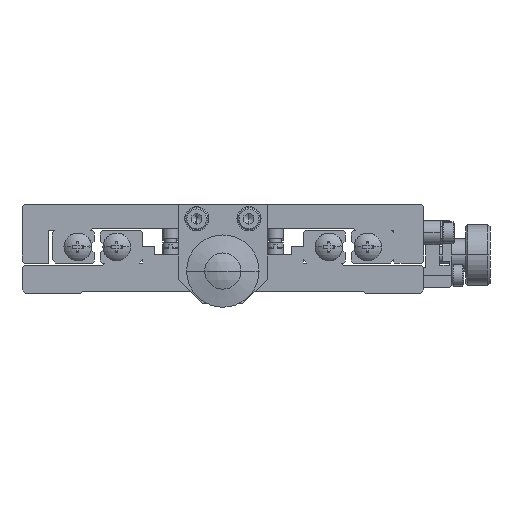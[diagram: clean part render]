
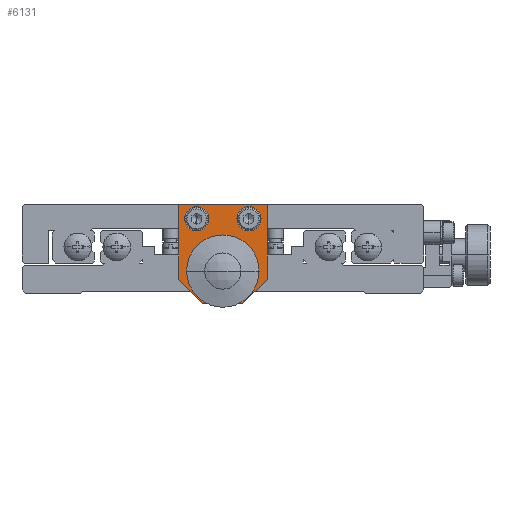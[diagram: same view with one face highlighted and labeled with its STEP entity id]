
A CAD part, front view. The second image highlights one B-rep face of the part: STEP entity #6131.
In plain terms, the highlighted planar face has unit normal (0, -1, 0) as drawn and (0, 1, 0) by its records, which use the part's own axes.
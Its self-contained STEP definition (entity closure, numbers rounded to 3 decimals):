
#341 = CARTESIAN_POINT ( 'NONE',  ( -6.5, 76.5, -0.5 ) ) ;
#342 = CARTESIAN_POINT ( 'NONE',  ( -6.5, 76.5, -6.5 ) ) ;
#343 = DIRECTION ( 'NONE',  ( 0., 0., 1. ) ) ;
#344 = DIRECTION ( 'NONE',  ( 0., -1., 0. ) ) ;
#345 = CARTESIAN_POINT ( 'NONE',  ( -6.5, 76.5, -3.5 ) ) ;
#346 = AXIS2_PLACEMENT_3D ( 'NONE', #345, #344, #343 ) ;
#347 = CIRCLE ( 'NONE', #346, 3. ) ;
#445 = CARTESIAN_POINT ( 'NONE',  ( 6.5, 76.5, -0.5 ) ) ;
#446 = CARTESIAN_POINT ( 'NONE',  ( 6.5, 76.5, -6.5 ) ) ;
#447 = DIRECTION ( 'NONE',  ( 0., 0., 1. ) ) ;
#448 = DIRECTION ( 'NONE',  ( 0., -1., 0. ) ) ;
#449 = CARTESIAN_POINT ( 'NONE',  ( 6.5, 76.5, -3.5 ) ) ;
#450 = AXIS2_PLACEMENT_3D ( 'NONE', #449, #448, #447 ) ;
#451 = CIRCLE ( 'NONE', #450, 3. ) ;
#603 = CARTESIAN_POINT ( 'NONE',  ( 8., 76.5, -16.5 ) ) ;
#604 = CARTESIAN_POINT ( 'NONE',  ( -8., 76.5, -16.5 ) ) ;
#605 = DIRECTION ( 'NONE',  ( -1., 0., 0. ) ) ;
#606 = DIRECTION ( 'NONE',  ( 0., 1., 0. ) ) ;
#607 = CARTESIAN_POINT ( 'NONE',  ( 0., 76.5, -16.5 ) ) ;
#608 = AXIS2_PLACEMENT_3D ( 'NONE', #607, #606, #605 ) ;
#609 = CIRCLE ( 'NONE', #608, 8. ) ;
#3310 = VERTEX_POINT ( 'NONE', #37578 ) ;
#3313 = EDGE_CURVE ( 'NONE', #3315, #3310, #37563, .T. ) ;
#3315 = VERTEX_POINT ( 'NONE', #37554 ) ;
#5930 = EDGE_CURVE ( 'NONE', #6032, #5931, #45702, .T. ) ;
#5931 = VERTEX_POINT ( 'NONE', #45698 ) ;
#6032 = VERTEX_POINT ( 'NONE', #45486 ) ;
#6041 = EDGE_CURVE ( 'NONE', #6061, #3310, #45478, .T. ) ;
#6053 = EDGE_CURVE ( 'NONE', #12311, #12310, #45798, .T. ) ;
#6061 = VERTEX_POINT ( 'NONE', #45786 ) ;
#6076 = VERTEX_POINT ( 'NONE', #45946 ) ;
#6078 = EDGE_CURVE ( 'NONE', #6076, #6061, #45945, .T. ) ;
#6095 = EDGE_CURVE ( 'NONE', #12336, #12335, #45934, .T. ) ;
#6114 = ORIENTED_EDGE ( 'NONE', *, *, #6078, .F. ) ;
#6115 = ORIENTED_EDGE ( 'NONE', *, *, #6095, .T. ) ;
#6116 = ORIENTED_EDGE ( 'NONE', *, *, #12334, .T. ) ;
#6117 = EDGE_LOOP ( 'NONE', ( #6118, #6119 ) ) ;
#6118 = ORIENTED_EDGE ( 'NONE', *, *, #6053, .T. ) ;
#6119 = ORIENTED_EDGE ( 'NONE', *, *, #12309, .T. ) ;
#6131 = ADVANCED_FACE ( 'NONE', ( #45894, #45893, #45892 ), #45891, .T. ) ;
#6132 = EDGE_LOOP ( 'NONE', ( #6133, #6203, #6205, #6206, #6208, #6209, #6199, #6200, #6201, #6114 ) ) ;
#6133 = ORIENTED_EDGE ( 'NONE', *, *, #6166, .F. ) ;
#6164 = EDGE_CURVE ( 'NONE', #6032, #3315, #45830, .T. ) ;
#6166 = EDGE_CURVE ( 'NONE', #6184, #6076, #45827, .T. ) ;
#6183 = EDGE_CURVE ( 'NONE', #5931, #6184, #45803, .T. ) ;
#6184 = VERTEX_POINT ( 'NONE', #45799 ) ;
#6199 = ORIENTED_EDGE ( 'NONE', *, *, #6164, .T. ) ;
#6200 = ORIENTED_EDGE ( 'NONE', *, *, #3313, .T. ) ;
#6201 = ORIENTED_EDGE ( 'NONE', *, *, #6041, .F. ) ;
#6202 = EDGE_LOOP ( 'NONE', ( #6115, #6116 ) ) ;
#6203 = ORIENTED_EDGE ( 'NONE', *, *, #6204, .F. ) ;
#6204 = EDGE_CURVE ( 'NONE', #12451, #6184, #45753, .T. ) ;
#6205 = ORIENTED_EDGE ( 'NONE', *, *, #12449, .F. ) ;
#6206 = ORIENTED_EDGE ( 'NONE', *, *, #6207, .F. ) ;
#6207 = EDGE_CURVE ( 'NONE', #6184, #12450, #45748, .T. ) ;
#6208 = ORIENTED_EDGE ( 'NONE', *, *, #6183, .F. ) ;
#6209 = ORIENTED_EDGE ( 'NONE', *, *, #5930, .F. ) ;
#12309 = EDGE_CURVE ( 'NONE', #12310, #12311, #451, .T. ) ;
#12310 = VERTEX_POINT ( 'NONE', #446 ) ;
#12311 = VERTEX_POINT ( 'NONE', #445 ) ;
#12334 = EDGE_CURVE ( 'NONE', #12335, #12336, #347, .T. ) ;
#12335 = VERTEX_POINT ( 'NONE', #342 ) ;
#12336 = VERTEX_POINT ( 'NONE', #341 ) ;
#12449 = EDGE_CURVE ( 'NONE', #12450, #12451, #609, .T. ) ;
#12450 = VERTEX_POINT ( 'NONE', #604 ) ;
#12451 = VERTEX_POINT ( 'NONE', #603 ) ;
#37554 = CARTESIAN_POINT ( 'NONE',  ( -11., 76.5, 0. ) ) ;
#37559 = DIRECTION ( 'NONE',  ( 1., 0., 0. ) ) ;
#37560 = VECTOR ( 'NONE', #37559, 1000. ) ;
#37561 = CARTESIAN_POINT ( 'NONE',  ( -11., 76.5, 0. ) ) ;
#37563 = LINE ( 'NONE', #37561, #37560 ) ;
#37578 = CARTESIAN_POINT ( 'NONE',  ( 11., 76.5, 0. ) ) ;
#45472 = DIRECTION ( 'NONE',  ( 0., 0., 1. ) ) ;
#45473 = VECTOR ( 'NONE', #45472, 1000. ) ;
#45474 = CARTESIAN_POINT ( 'NONE',  ( 11., 76.5, -24.5 ) ) ;
#45478 = LINE ( 'NONE', #45474, #45473 ) ;
#45486 = CARTESIAN_POINT ( 'NONE',  ( -11., 76.5, -18.5 ) ) ;
#45698 = CARTESIAN_POINT ( 'NONE',  ( -5., 76.5, -24.5 ) ) ;
#45699 = DIRECTION ( 'NONE',  ( 0.707, 0., -0.707 ) ) ;
#45700 = VECTOR ( 'NONE', #45699, 1000. ) ;
#45701 = CARTESIAN_POINT ( 'NONE',  ( -8., 76.5, -21.5 ) ) ;
#45702 = LINE ( 'NONE', #45701, #45700 ) ;
#45742 = DIRECTION ( 'NONE',  ( -1., 0., 0. ) ) ;
#45743 = DIRECTION ( 'NONE',  ( 0., 1., 0. ) ) ;
#45744 = CARTESIAN_POINT ( 'NONE',  ( 0., 76.5, -16.5 ) ) ;
#45745 = AXIS2_PLACEMENT_3D ( 'NONE', #45744, #45743, #45742 ) ;
#45748 = CIRCLE ( 'NONE', #45745, 8. ) ;
#45749 = DIRECTION ( 'NONE',  ( -1., 0., 0. ) ) ;
#45750 = DIRECTION ( 'NONE',  ( 0., 1., 0. ) ) ;
#45751 = CARTESIAN_POINT ( 'NONE',  ( 0., 76.5, -16.5 ) ) ;
#45752 = AXIS2_PLACEMENT_3D ( 'NONE', #45751, #45750, #45749 ) ;
#45753 = CIRCLE ( 'NONE', #45752, 8. ) ;
#45786 = CARTESIAN_POINT ( 'NONE',  ( 11., 76.5, -18.5 ) ) ;
#45794 = DIRECTION ( 'NONE',  ( 0., 0., 1. ) ) ;
#45795 = DIRECTION ( 'NONE',  ( 0., -1., 0. ) ) ;
#45796 = CARTESIAN_POINT ( 'NONE',  ( 6.5, 76.5, -3.5 ) ) ;
#45797 = AXIS2_PLACEMENT_3D ( 'NONE', #45796, #45795, #45794 ) ;
#45798 = CIRCLE ( 'NONE', #45797, 3. ) ;
#45799 = CARTESIAN_POINT ( 'NONE',  ( 0., 76.5, -24.5 ) ) ;
#45800 = DIRECTION ( 'NONE',  ( 1., 0., 0. ) ) ;
#45801 = VECTOR ( 'NONE', #45800, 1000. ) ;
#45802 = CARTESIAN_POINT ( 'NONE',  ( -11., 76.5, -24.5 ) ) ;
#45803 = LINE ( 'NONE', #45802, #45801 ) ;
#45824 = DIRECTION ( 'NONE',  ( 1., 0., 0. ) ) ;
#45825 = VECTOR ( 'NONE', #45824, 1000. ) ;
#45826 = CARTESIAN_POINT ( 'NONE',  ( -11., 76.5, -24.5 ) ) ;
#45827 = LINE ( 'NONE', #45826, #45825 ) ;
#45828 = DIRECTION ( 'NONE',  ( 0., 0., 1. ) ) ;
#45829 = VECTOR ( 'NONE', #45828, 1000. ) ;
#45830 = LINE ( 'NONE', #45834, #45829 ) ;
#45834 = CARTESIAN_POINT ( 'NONE',  ( -11., 76.5, -24.5 ) ) ;
#45886 = DIRECTION ( 'NONE',  ( 1., 0., 0. ) ) ;
#45887 = DIRECTION ( 'NONE',  ( 0., 1., 0. ) ) ;
#45888 = AXIS2_PLACEMENT_3D ( 'NONE', #45890, #45887, #45886 ) ;
#45890 = CARTESIAN_POINT ( 'NONE',  ( -11., 76.5, -24.5 ) ) ;
#45891 = PLANE ( 'NONE',  #45888 ) ;
#45892 = FACE_BOUND ( 'NONE', #6117, .T. ) ;
#45893 = FACE_BOUND ( 'NONE', #6202, .T. ) ;
#45894 = FACE_OUTER_BOUND ( 'NONE', #6132, .T. ) ;
#45926 = DIRECTION ( 'NONE',  ( 0., 0., 1. ) ) ;
#45927 = DIRECTION ( 'NONE',  ( 0., -1., 0. ) ) ;
#45928 = CARTESIAN_POINT ( 'NONE',  ( -6.5, 76.5, -3.5 ) ) ;
#45929 = AXIS2_PLACEMENT_3D ( 'NONE', #45928, #45927, #45926 ) ;
#45934 = CIRCLE ( 'NONE', #45929, 3. ) ;
#45942 = DIRECTION ( 'NONE',  ( 0.707, 0., 0.707 ) ) ;
#45943 = VECTOR ( 'NONE', #45942, 1000. ) ;
#45944 = CARTESIAN_POINT ( 'NONE',  ( -3., 76.5, -32.5 ) ) ;
#45945 = LINE ( 'NONE', #45944, #45943 ) ;
#45946 = CARTESIAN_POINT ( 'NONE',  ( 5., 76.5, -24.5 ) ) ;
